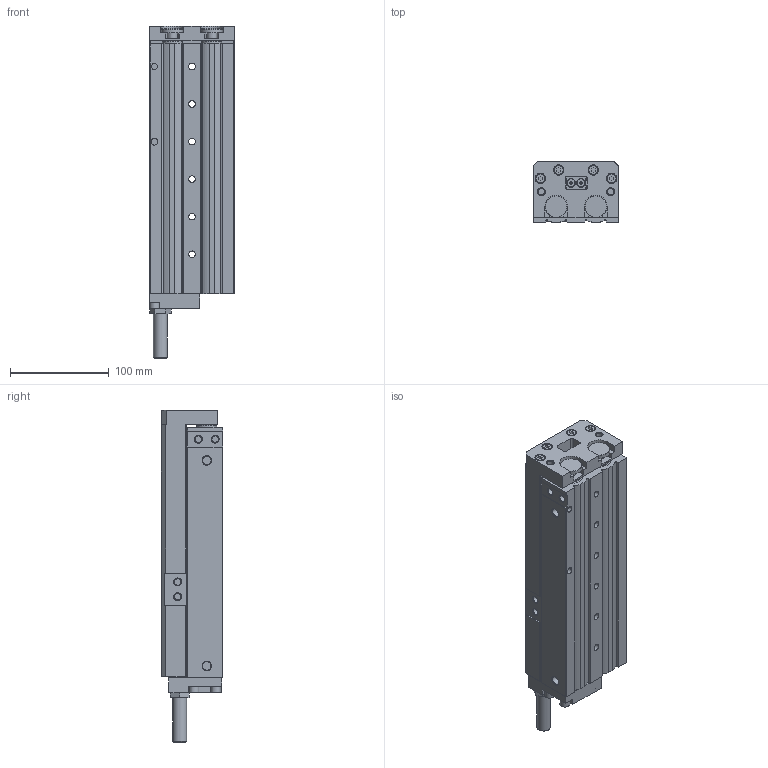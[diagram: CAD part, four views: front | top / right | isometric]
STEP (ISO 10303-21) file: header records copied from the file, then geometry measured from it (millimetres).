
FILE_DESCRIPTION( ( 'STEP AP214' ), '1' );
FILE_NAME( 'C:/Users/EMC02301/Desktop/ELS图纸/ELS25X125-S-BF.stp', '2026-08-05T06:30:24', ( 'License CC BY-ND 4.0' ), ( 'CADENAS' ), ' ', 'PARTsolutions', ' ' );
FILE_SCHEMA( ( 'AUTOMOTIVE_DESIGN { 1 0 10303 214 1 1 1 1 }' ) );
Length unit declared in the file: millimetre
Products named in the file (4): ELS25X125-S-BF(0)(); _ELS25X125-S-BF(HX-07)(HX-07-1)(0-body); _ELS25X125-S-BF(0-rod); _FJ-ELS25-BF-(BF)
Assembly tree (3 placements, depth 2):
  ELS25X125-S-BF(0)()
    _ELS25X125-S-BF(HX-07)(HX-07-1)(0-body)
    _ELS25X125-S-BF(0-rod)
    _FJ-ELS25-BF-(BF)
Bounding box: 86 x 62 x 336 mm (x, y, z)
Volume: 1236663.8 mm3; surface area: 269882 mm2
Topology: 3 solids, 3 shells, 566 faces, 1377 edges, 911 vertices
Faces by surface type: plane 396, cylinder 136, cone 34
Full cylindrical faces by diameter (mm): 4 x1, 4.917 x14, 6 x2, 6.647 x12, 6.8 x6, 8 x8, 8.566 x2, 9 x12, 10 x12, 10.5 x5, 12 x11, 14 x2, 20 x2, 22 x2, 23 x2, 25 x4, 26 x2
Entity records: 20293 total; most frequent: CARTESIAN_POINT 2675, DIRECTION 2667, ORIENTED_EDGE 2438, EDGE_CURVE 1219, LINE 911, VECTOR 911, VERTEX_POINT 886, AXIS2_PLACEMENT_3D 878
